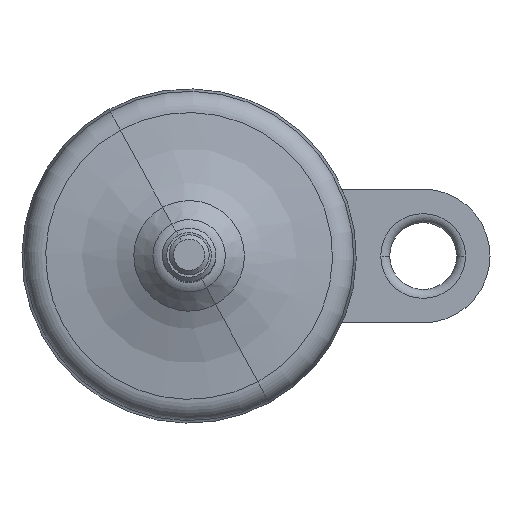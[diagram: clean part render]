
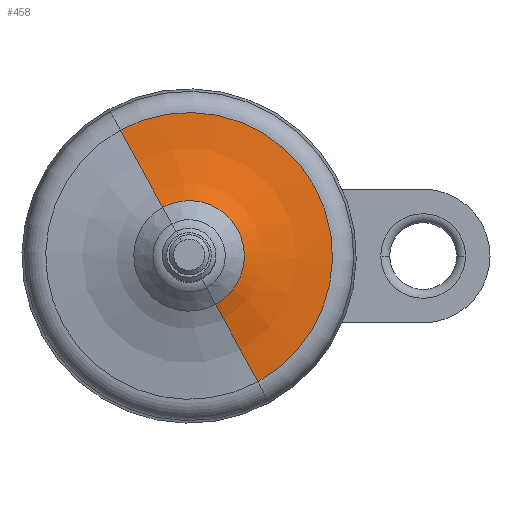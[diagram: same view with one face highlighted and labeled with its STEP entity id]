
A CAD part, top view. The second image highlights one B-rep face of the part: STEP entity #458.
In plain terms, the highlighted face is a revolution surface.
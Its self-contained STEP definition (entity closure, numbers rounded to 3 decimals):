
#377=CARTESIAN_POINT('Vertex',(15.424,-28.233,15.997)) ;
#384=CARTESIAN_POINT('Vertex',(-15.424,28.233,15.997)) ;
#399=CARTESIAN_POINT('Axis2P3D Location',(0.,0.,15.997)) ;
#412=CARTESIAN_POINT('Control Point',(-4.315,7.898,22.602)) ;
#413=CARTESIAN_POINT('Control Point',(-6.844,12.529,19.574)) ;
#414=CARTESIAN_POINT('Control Point',(-9.61,17.591,17.401)) ;
#415=CARTESIAN_POINT('Control Point',(-12.509,22.898,16.206)) ;
#416=CARTESIAN_POINT('Control Point',(-15.424,28.233,15.997)) ;
#417=CARTESIAN_POINT('Axis1P Location',(0.,0.,65.968)) ;
#421=CARTESIAN_POINT('Axis2P3D Location',(16.247,-29.74,65.968)) ;
#425=CARTESIAN_POINT('Vertex',(4.315,-7.898,22.602)) ;
#432=CARTESIAN_POINT('Vertex',(-4.315,7.898,22.602)) ;
#435=CARTESIAN_POINT('Axis2P3D Location',(-16.247,29.74,65.968)) ;
#447=CARTESIAN_POINT('Axis2P3D Location',(0.,0.,22.602)) ;
#400=DIRECTION('Axis2P3D Direction',(0.,0.,1.)) ;
#418=DIRECTION('Axis1P Direction',(-0.,-0.,-1.)) ;
#422=DIRECTION('Axis2P3D Direction',(-0.878,-0.479,0.)) ;
#436=DIRECTION('Axis2P3D Direction',(0.878,0.479,-0.)) ;
#448=DIRECTION('Axis2P3D Direction',(0.,0.,1.)) ;
#401=AXIS2_PLACEMENT_3D('Circle Axis2P3D',#399,#400,$) ;
#423=AXIS2_PLACEMENT_3D('Circle Axis2P3D',#421,#422,$) ;
#437=AXIS2_PLACEMENT_3D('Circle Axis2P3D',#435,#436,$) ;
#449=AXIS2_PLACEMENT_3D('Circle Axis2P3D',#447,#448,$) ;
#453=ORIENTED_EDGE('',*,*,#439,.T.) ;
#454=ORIENTED_EDGE('',*,*,#451,.F.) ;
#455=ORIENTED_EDGE('',*,*,#427,.F.) ;
#456=ORIENTED_EDGE('',*,*,#403,.T.) ;
#458=ADVANCED_FACE('PartBody',(#457),#420,.T.) ;
#419=AXIS1_PLACEMENT('Revolution Surface Axis1P',#417,#418) ;
#411=B_SPLINE_CURVE_WITH_KNOTS('',4,(#412,#413,#414,#415,#416),.UNSPECIFIED.,.F.,.U.,(5,5),(-104.591,-80.257),.UNSPECIFIED.) ;
#402=CIRCLE('generated circle',#401,32.172) ;
#424=CIRCLE('generated circle',#423,50.) ;
#438=CIRCLE('generated circle',#437,50.) ;
#450=CIRCLE('generated circle',#449,9.) ;
#403=EDGE_CURVE('',#378,#385,#402,.T.) ;
#427=EDGE_CURVE('',#378,#426,#424,.F.) ;
#439=EDGE_CURVE('',#385,#433,#438,.F.) ;
#451=EDGE_CURVE('',#426,#433,#450,.T.) ;
#452=EDGE_LOOP('',(#453,#454,#455,#456)) ;
#457=FACE_OUTER_BOUND('',#452,.T.) ;
#420=SURFACE_OF_REVOLUTION('homeo Torus',#411,#419) ;
#378=VERTEX_POINT('',#377) ;
#385=VERTEX_POINT('',#384) ;
#426=VERTEX_POINT('',#425) ;
#433=VERTEX_POINT('',#432) ;
